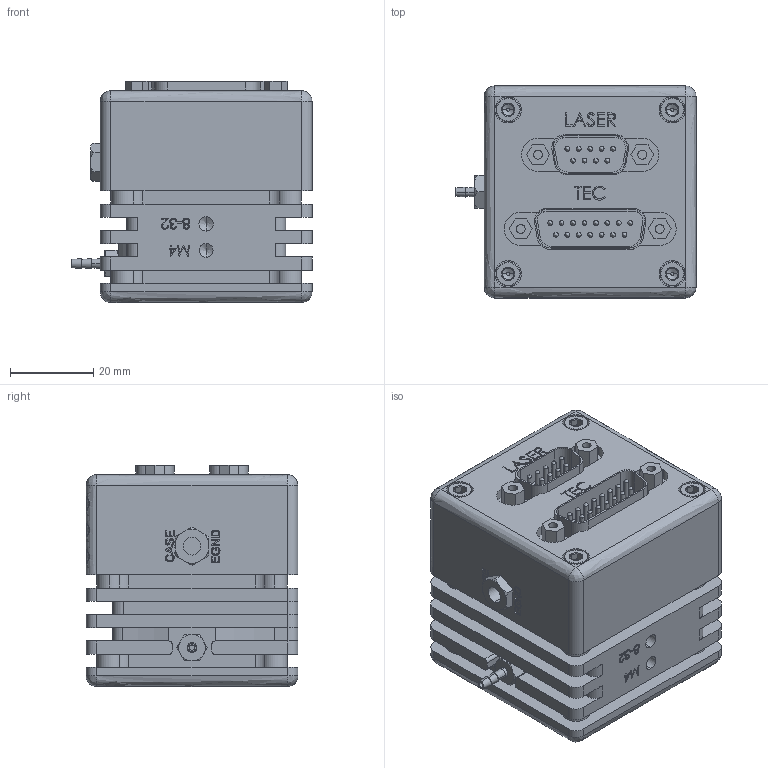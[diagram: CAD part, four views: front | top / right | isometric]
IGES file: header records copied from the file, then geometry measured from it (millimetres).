
Start section: SolidWorks IGES file using analytic representation for surfaces
Global section: file name: C:\Dropbox\Mechanical Engr\Development Projects (P)\224 LaserMount, (TO-Can)\Customer Model Development\Step 2 - 224 TO-Can LaserMount.IGS; native system: SolidWorks 2014; preprocessor: SolidWorks 2014; author: mhanson; date: 150304.150115; units: millimetre
Bounding box: 57.61 x 50.8 x 53.02 mm (x, y, z)
Volume: 111553.7 mm3; surface area: 33436.6 mm2
Topology: 4 solids, 6 shells, 2339 faces, 6152 edges, 4023 vertices
Faces by surface type: plane 1164, revolution 685, bspline 490
